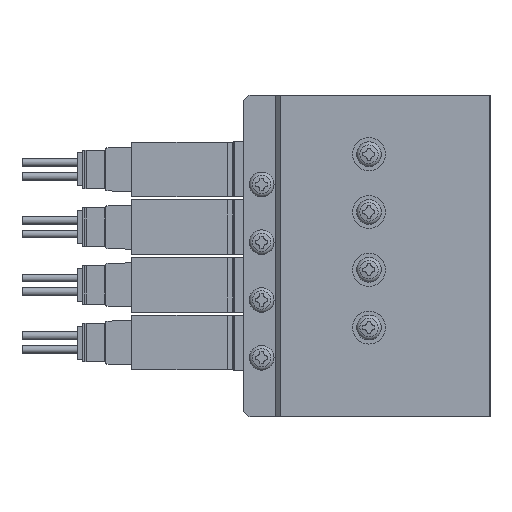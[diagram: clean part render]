
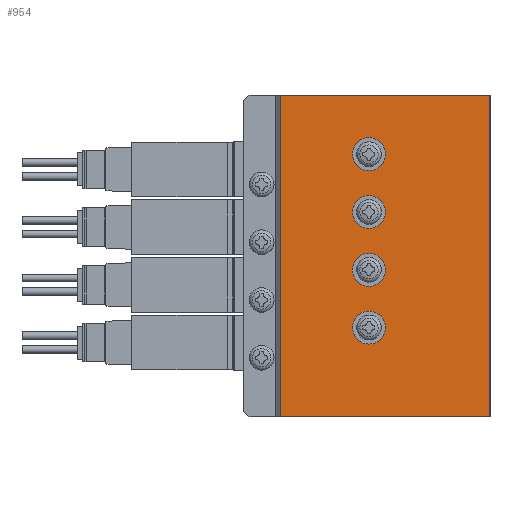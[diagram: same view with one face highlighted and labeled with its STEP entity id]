
A CAD part, left-side view. The second image highlights one B-rep face of the part: STEP entity #954.
In plain terms, the highlighted planar face has unit normal (-1, 0, 0) as drawn and (1, 0, 0) by its records, which use the part's own axes.
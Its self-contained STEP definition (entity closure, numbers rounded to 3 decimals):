
#954=ADVANCED_FACE('',(#2186,#2187,#2188,#2189,#2190),#2191,.F.);
#2186=FACE_OUTER_BOUND('',#3451,.T.);
#2187=FACE_BOUND('',#3452,.T.);
#2188=FACE_BOUND('',#3453,.T.);
#2189=FACE_BOUND('',#3454,.T.);
#2190=FACE_BOUND('',#3455,.T.);
#2191=PLANE('',#3456);
#3451=EDGE_LOOP('',(#7531,#7532,#7533,#7534));
#3452=EDGE_LOOP('',(#7535));
#3453=EDGE_LOOP('',(#7536));
#3454=EDGE_LOOP('',(#7537));
#3455=EDGE_LOOP('',(#7538));
#3456=AXIS2_PLACEMENT_3D('',#7539,#7540,#7541);
#7531=ORIENTED_EDGE('',*,*,#8582,.T.);
#7532=ORIENTED_EDGE('',*,*,#8560,.F.);
#7533=ORIENTED_EDGE('',*,*,#8861,.F.);
#7534=ORIENTED_EDGE('',*,*,#8883,.T.);
#7535=ORIENTED_EDGE('',*,*,#8900,.F.);
#7536=ORIENTED_EDGE('',*,*,#8924,.F.);
#7537=ORIENTED_EDGE('',*,*,#8848,.F.);
#7538=ORIENTED_EDGE('',*,*,#8960,.F.);
#7539=CARTESIAN_POINT('',(19.0,0.0,29.25));
#7540=DIRECTION('',(-1.0,0.0,0.0));
#7541=DIRECTION('',(0.0,0.0,1.0));
#8560=EDGE_CURVE('',#10458,#10453,#10460,.T.);
#8582=EDGE_CURVE('',#10499,#10453,#10500,.T.);
#8848=EDGE_CURVE('',#10974,#10974,#10975,.T.);
#8861=EDGE_CURVE('',#10993,#10458,#10995,.T.);
#8883=EDGE_CURVE('',#10993,#10499,#11026,.T.);
#8900=EDGE_CURVE('',#11049,#11049,#11050,.T.);
#8924=EDGE_CURVE('',#11084,#11084,#11085,.T.);
#8960=EDGE_CURVE('',#11134,#11134,#11135,.T.);
#10453=VERTEX_POINT('',#13601);
#10458=VERTEX_POINT('',#13608);
#10460=LINE('',#13611,#13612);
#10499=VERTEX_POINT('',#13869);
#10500=LINE('',#13870,#13871);
#10974=VERTEX_POINT('',#14909);
#10975=CIRCLE('',#14910,3.0);
#10993=VERTEX_POINT('',#14933);
#10995=LINE('',#14936,#14937);
#11026=LINE('',#14983,#14984);
#11049=VERTEX_POINT('',#15018);
#11050=CIRCLE('',#15019,3.0);
#11084=VERTEX_POINT('',#15078);
#11085=CIRCLE('',#15079,3.0);
#11134=VERTEX_POINT('',#15233);
#11135=CIRCLE('',#15234,3.0);
#13601=CARTESIAN_POINT('',(19.0,38.0,-29.25));
#13608=CARTESIAN_POINT('',(19.0,38.0,29.25));
#13611=CARTESIAN_POINT('',(19.0,38.0,29.25));
#13612=VECTOR('',#16427,1.0);
#13869=CARTESIAN_POINT('',(19.0,0.0,-29.25));
#13870=CARTESIAN_POINT('',(19.0,0.0,-29.25));
#13871=VECTOR('',#16452,1.0);
#14909=CARTESIAN_POINT('',(19.0,22.0,-11.0));
#14910=AXIS2_PLACEMENT_3D('',#16921,#16922,#16923);
#14933=CARTESIAN_POINT('',(19.0,0.0,29.25));
#14936=CARTESIAN_POINT('',(19.0,0.0,29.25));
#14937=VECTOR('',#16945,1.0);
#14983=CARTESIAN_POINT('',(19.0,0.0,29.25));
#14984=VECTOR('',#16976,1.0);
#15018=CARTESIAN_POINT('',(19.0,22.0,10.0));
#15019=AXIS2_PLACEMENT_3D('',#17003,#17004,#17005);
#15078=CARTESIAN_POINT('',(19.0,22.0,-21.5));
#15079=AXIS2_PLACEMENT_3D('',#17050,#17051,#17052);
#15233=CARTESIAN_POINT('',(19.0,22.0,-0.5));
#15234=AXIS2_PLACEMENT_3D('',#17107,#17108,#17109);
#16427=DIRECTION('',(0.0,0.0,-1.0));
#16452=DIRECTION('',(0.0,1.0,0.0));
#16921=CARTESIAN_POINT('',(19.0,22.0,-8.0));
#16922=DIRECTION('',(1.0,0.0,0.0));
#16923=DIRECTION('',(0.0,0.0,-1.0));
#16945=DIRECTION('',(0.0,1.0,0.0));
#16976=DIRECTION('',(0.0,0.0,-1.0));
#17003=CARTESIAN_POINT('',(19.0,22.0,13.0));
#17004=DIRECTION('',(1.0,0.0,0.0));
#17005=DIRECTION('',(0.0,0.0,-1.0));
#17050=CARTESIAN_POINT('',(19.0,22.0,-18.5));
#17051=DIRECTION('',(1.0,0.0,0.0));
#17052=DIRECTION('',(0.0,0.0,-1.0));
#17107=CARTESIAN_POINT('',(19.0,22.0,2.5));
#17108=DIRECTION('',(1.0,0.0,0.0));
#17109=DIRECTION('',(0.0,0.0,-1.0));
